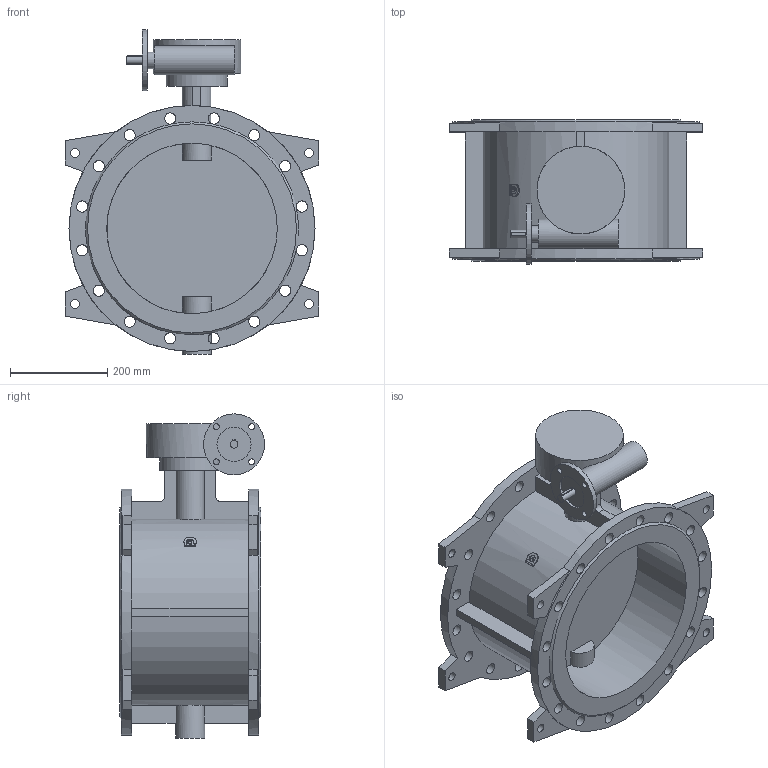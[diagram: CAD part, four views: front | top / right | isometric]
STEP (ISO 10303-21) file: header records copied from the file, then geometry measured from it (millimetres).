
FILE_DESCRIPTION(('STEP AP203'), '1');
FILE_NAME('Çàòâîð 023F.Z DN350 PN10_ð-ð_ôë', '', ('UNSPECIFIED'), ('UNSPECIFIED'), 'ASCON STEP Converter 1.6', 'ASCON Math Kernel', '');
FILE_SCHEMA(('CONFIG_CONTROL_DESIGN'));
Length unit declared in the file: millimetre
Bounding box: 520 x 297.5 x 665.5 mm (x, y, z)
Volume: 16481770.7 mm3; surface area: 1559401.8 mm2
Topology: 1 solids, 1 shells, 178 faces, 521 edges, 336 vertices
Faces by surface type: plane 95, cylinder 81, cone 2
Full cylindrical faces by diameter (mm): 8.3 x4, 12 x8, 16 x1, 18 x8, 23 x32, 34 x1, 60 x2, 70 x1, 125 x2, 180 x1, 350 x2, 505 x2
Entity records: 8446 total; most frequent: CARTESIAN_POINT 2176, DIRECTION 1021, ORIENTED_EDGE 890, EDGE_CURVE 445, AXIS2_PLACEMENT_3D 415, EDGE_LOOP 357, VERTEX_POINT 332, FACE_BOUND 260
